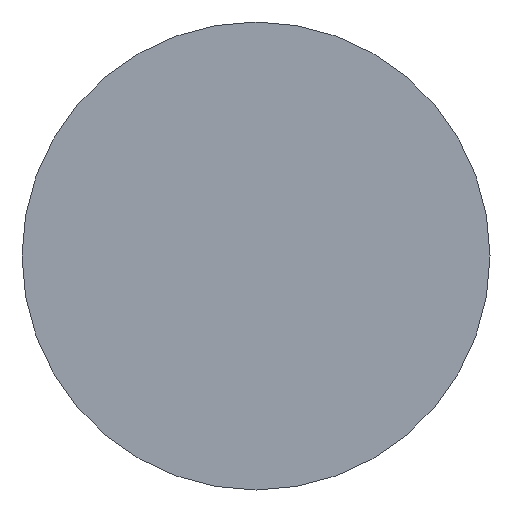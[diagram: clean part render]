
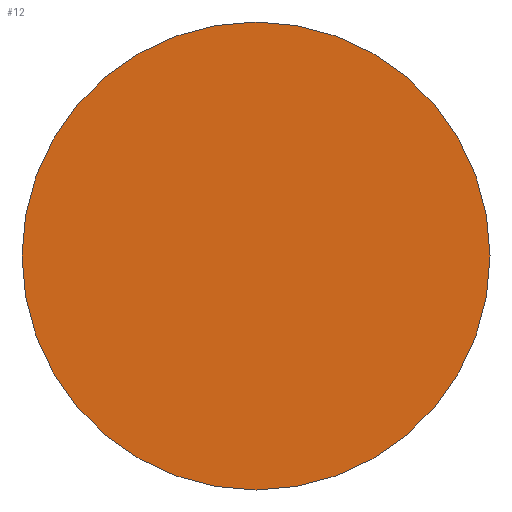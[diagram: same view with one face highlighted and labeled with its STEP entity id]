
A CAD part, left-side view. The second image highlights one B-rep face of the part: STEP entity #12.
In plain terms, the highlighted planar face has unit normal (-1, 0, 0).
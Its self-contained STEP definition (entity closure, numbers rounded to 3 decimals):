
#3 = DIRECTION ( 'NONE',  ( 0., -1., 0. ) ) ;
#12 = ADVANCED_FACE ( 'NONE', ( #60 ), #262, .T. ) ;
#13 = AXIS2_PLACEMENT_3D ( 'NONE', #32, #204, #3 ) ;
#32 = CARTESIAN_POINT ( 'NONE',  ( 0., 0., 0. ) ) ;
#41 = DIRECTION ( 'NONE',  ( 1., 0., 0. ) ) ;
#45 = AXIS2_PLACEMENT_3D ( 'NONE', #141, #46, #47 ) ;
#46 = DIRECTION ( 'NONE',  ( 1., 0., 0. ) ) ;
#47 = DIRECTION ( 'NONE',  ( 0., 1., 0. ) ) ;
#60 = FACE_OUTER_BOUND ( 'NONE', #241, .T. ) ;
#70 = AXIS2_PLACEMENT_3D ( 'NONE', #192, #41, #167 ) ;
#98 = CARTESIAN_POINT ( 'NONE',  ( 0., -8., 0. ) ) ;
#130 = CIRCLE ( 'NONE', #45, 8. ) ;
#140 = ORIENTED_EDGE ( 'NONE', *, *, #166, .F. ) ;
#141 = CARTESIAN_POINT ( 'NONE',  ( 0., 0., 0. ) ) ;
#154 = CIRCLE ( 'NONE', #70, 8. ) ;
#166 = EDGE_CURVE ( 'NONE', #244, #216, #154, .T. ) ;
#167 = DIRECTION ( 'NONE',  ( 0., 1., 0. ) ) ;
#192 = CARTESIAN_POINT ( 'NONE',  ( 0., 0., 0. ) ) ;
#204 = DIRECTION ( 'NONE',  ( -1., 0., 0. ) ) ;
#216 = VERTEX_POINT ( 'NONE', #222 ) ;
#222 = CARTESIAN_POINT ( 'NONE',  ( 0., 8., 0. ) ) ;
#223 = ORIENTED_EDGE ( 'NONE', *, *, #259, .F. ) ;
#241 = EDGE_LOOP ( 'NONE', ( #223, #140 ) ) ;
#244 = VERTEX_POINT ( 'NONE', #98 ) ;
#259 = EDGE_CURVE ( 'NONE', #216, #244, #130, .T. ) ;
#262 = PLANE ( 'NONE',  #13 ) ;
